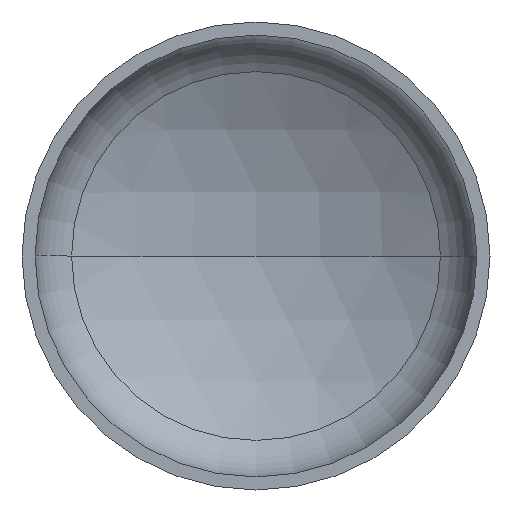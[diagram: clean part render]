
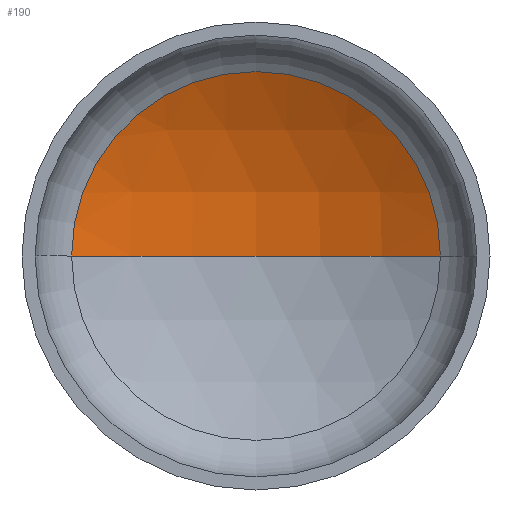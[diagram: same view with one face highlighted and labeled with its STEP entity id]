
A CAD part, front view. The second image highlights one B-rep face of the part: STEP entity #190.
In plain terms, the highlighted spherical face has radius 3200 mm.
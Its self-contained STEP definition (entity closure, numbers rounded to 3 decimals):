
#5 = AXIS2_PLACEMENT_3D ( 'NONE', #374, #233, #323 ) ;
#9 = VERTEX_POINT ( 'NONE', #365 ) ;
#16 = AXIS2_PLACEMENT_3D ( 'NONE', #293, #296, #204 ) ;
#36 = ORIENTED_EDGE ( 'NONE', *, *, #384, .F. ) ;
#52 = VERTEX_POINT ( 'NONE', #241 ) ;
#71 = AXIS2_PLACEMENT_3D ( 'NONE', #349, #193, #147 ) ;
#106 = VERTEX_POINT ( 'NONE', #314 ) ;
#107 = SPHERICAL_SURFACE ( 'NONE', #71, 3200. ) ;
#121 = CARTESIAN_POINT ( 'NONE',  ( 0., -2174.821, 0. ) ) ;
#129 = EDGE_LOOP ( 'NONE', ( #36, #136, #401 ) ) ;
#136 = ORIENTED_EDGE ( 'NONE', *, *, #386, .T. ) ;
#147 = DIRECTION ( 'NONE',  ( -1., 0., 0. ) ) ;
#190 = ADVANCED_FACE ( 'NONE', ( #302 ), #107, .F. ) ;
#193 = DIRECTION ( 'NONE',  ( 0., 0., -1. ) ) ;
#204 = DIRECTION ( 'NONE',  ( 1., 0., 0. ) ) ;
#212 = DIRECTION ( 'NONE',  ( 0., 0., -1. ) ) ;
#233 = DIRECTION ( 'NONE',  ( 0., 0., 1. ) ) ;
#241 = CARTESIAN_POINT ( 'NONE',  ( -1575.861, 610.257, 0. ) ) ;
#245 = AXIS2_PLACEMENT_3D ( 'NONE', #121, #212, #373 ) ;
#293 = CARTESIAN_POINT ( 'NONE',  ( 0., 610.257, 0. ) ) ;
#296 = DIRECTION ( 'NONE',  ( 0., -1., 0. ) ) ;
#302 = FACE_OUTER_BOUND ( 'NONE', #129, .T. ) ;
#314 = CARTESIAN_POINT ( 'NONE',  ( 0., 1025.179, 0. ) ) ;
#315 = CIRCLE ( 'NONE', #5, 3200. ) ;
#323 = DIRECTION ( 'NONE',  ( 1., 0., 0. ) ) ;
#340 = EDGE_CURVE ( 'NONE', #9, #52, #394, .T. ) ;
#349 = CARTESIAN_POINT ( 'NONE',  ( 0., -2174.821, 0. ) ) ;
#365 = CARTESIAN_POINT ( 'NONE',  ( 1575.861, 610.257, 0. ) ) ;
#373 = DIRECTION ( 'NONE',  ( -1., 0., 0. ) ) ;
#374 = CARTESIAN_POINT ( 'NONE',  ( 0., -2174.821, 0. ) ) ;
#379 = CIRCLE ( 'NONE', #245, 3200. ) ;
#384 = EDGE_CURVE ( 'NONE', #106, #52, #315, .T. ) ;
#386 = EDGE_CURVE ( 'NONE', #106, #9, #379, .T. ) ;
#394 = CIRCLE ( 'NONE', #16, 1575.861 ) ;
#401 = ORIENTED_EDGE ( 'NONE', *, *, #340, .T. ) ;
